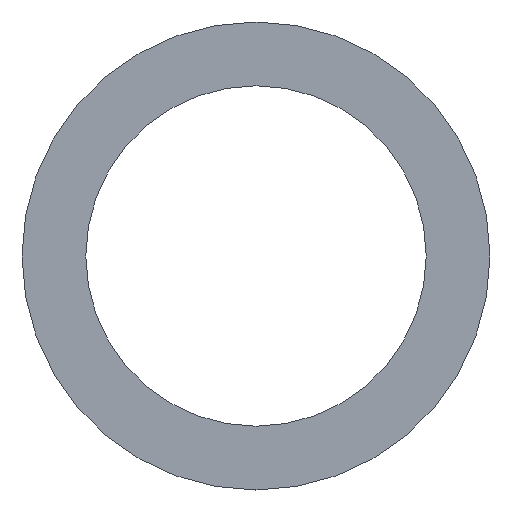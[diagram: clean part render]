
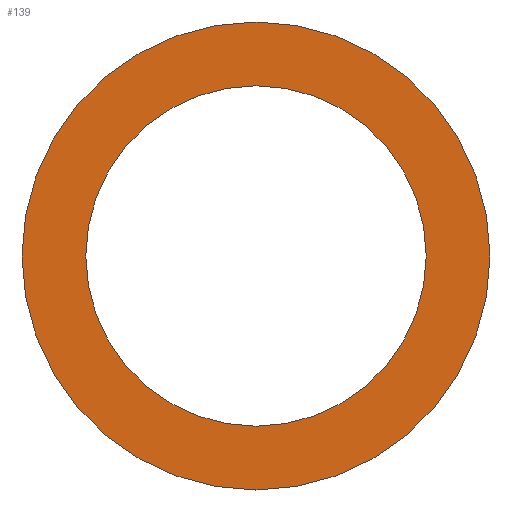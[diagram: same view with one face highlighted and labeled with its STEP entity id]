
A CAD part, left-side view. The second image highlights one B-rep face of the part: STEP entity #139.
In plain terms, the highlighted planar face has unit normal (-1, 0, 0).
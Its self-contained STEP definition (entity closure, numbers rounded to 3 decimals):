
#62=PLANE('',#131);
#66=ORIENTED_EDGE('',*,*,#80,.T.);
#67=ORIENTED_EDGE('',*,*,#82,.T.);
#72=CIRCLE('',#129,11.);
#74=CIRCLE('',#132,8.);
#76=VERTEX_POINT('',#117);
#78=VERTEX_POINT('',#122);
#80=EDGE_CURVE('',#76,#76,#72,.T.);
#82=EDGE_CURVE('',#78,#78,#74,.T.);
#86=EDGE_LOOP('',(#66));
#87=EDGE_LOOP('',(#67));
#94=FACE_BOUND('',#86,.T.);
#95=FACE_BOUND('',#87,.T.);
#102=DIRECTION('',(-1.,0.,0.));
#103=DIRECTION('',(0.,0.,11.));
#106=DIRECTION('',(-1.,0.,0.));
#107=DIRECTION('',(0.,1.,0.));
#108=DIRECTION('',(1.,0.,0.));
#109=DIRECTION('',(0.,0.,8.));
#117=CARTESIAN_POINT('',(0.,0.,11.));
#118=CARTESIAN_POINT('',(0.,0.,0.));
#121=CARTESIAN_POINT('',(0.,0.,11.));
#122=CARTESIAN_POINT('',(0.,0.,8.));
#123=CARTESIAN_POINT('',(0.,0.,0.));
#129=AXIS2_PLACEMENT_3D('',#118,#102,#103);
#131=AXIS2_PLACEMENT_3D('',#121,#106,#107);
#132=AXIS2_PLACEMENT_3D('',#123,#108,#109);
#139=ADVANCED_FACE('',(#94,#95),#62,.T.);
